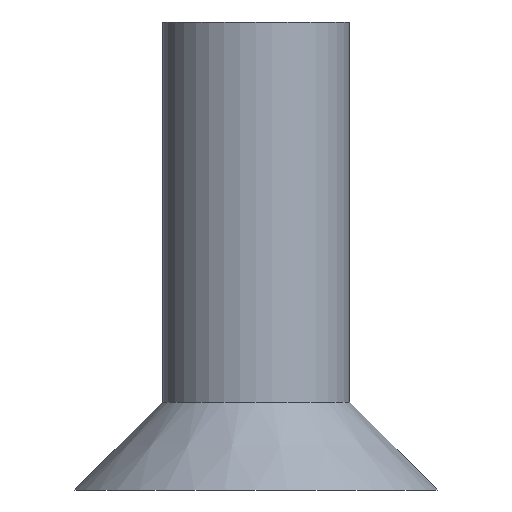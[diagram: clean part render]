
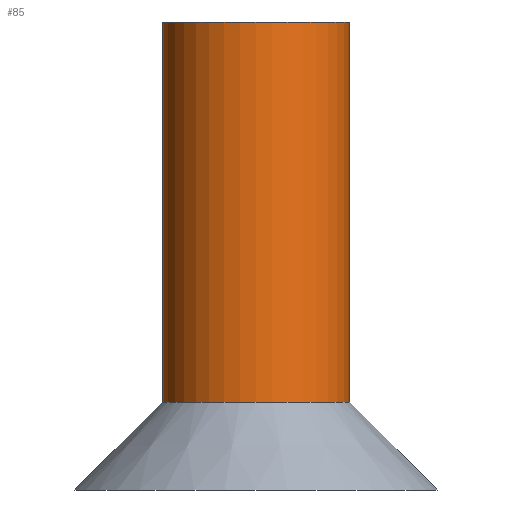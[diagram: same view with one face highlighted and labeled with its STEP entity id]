
A CAD part, front view. The second image highlights one B-rep face of the part: STEP entity #85.
In plain terms, the highlighted cylindrical face has radius 4 mm (diameter 8 mm), a partial arc.
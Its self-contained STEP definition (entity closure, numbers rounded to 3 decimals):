
#1=DIRECTION('',(0.,0.,-1.));
#2=VECTOR('',#1,16.25);
#3=CARTESIAN_POINT('',(4.,0.,20.));
#4=LINE('',#3,#2);
#5=DIRECTION('',(0.,0.,-1.));
#6=VECTOR('',#5,16.25);
#7=CARTESIAN_POINT('',(-4.,0.,20.));
#8=LINE('',#7,#6);
#9=CARTESIAN_POINT('',(0.,0.,20.));
#10=DIRECTION('',(0.,0.,-1.));
#11=DIRECTION('',(1.,0.,0.));
#12=AXIS2_PLACEMENT_3D('',#9,#10,#11);
#32=CARTESIAN_POINT('',(0.,0.,3.75));
#33=DIRECTION('',(0.,0.,-1.));
#34=DIRECTION('',(1.,0.,0.));
#35=AXIS2_PLACEMENT_3D('',#32,#33,#34);
#47=CARTESIAN_POINT('',(4.,0.,20.));
#48=CARTESIAN_POINT('',(4.,0.,3.75));
#49=VERTEX_POINT('',#47);
#50=VERTEX_POINT('',#48);
#53=CARTESIAN_POINT('',(-4.,0.,20.));
#54=CARTESIAN_POINT('',(-4.,0.,3.75));
#55=VERTEX_POINT('',#53);
#56=VERTEX_POINT('',#54);
#71=CARTESIAN_POINT('',(0.,0.,-1.));
#72=DIRECTION('',(0.,0.,1.));
#73=DIRECTION('',(-1.,0.,0.));
#74=AXIS2_PLACEMENT_3D('',#71,#72,#73);
#75=CYLINDRICAL_SURFACE('',#74,4.);
#77=ORIENTED_EDGE('',*,*,#76,.T.);
#79=ORIENTED_EDGE('',*,*,#78,.T.);
#81=ORIENTED_EDGE('',*,*,#80,.F.);
#82=ORIENTED_EDGE('',*,*,#64,.F.);
#83=EDGE_LOOP('',(#77,#79,#81,#82));
#84=FACE_OUTER_BOUND('',#83,.F.);
#85=ADVANCED_FACE('',(#84),#75,.T.);
#13=CIRCLE('',#12,4.);
#36=CIRCLE('',#35,4.);
#64=EDGE_CURVE('',#49,#55,#13,.T.);
#76=EDGE_CURVE('',#49,#50,#4,.T.);
#78=EDGE_CURVE('',#50,#56,#36,.T.);
#80=EDGE_CURVE('',#55,#56,#8,.T.);
